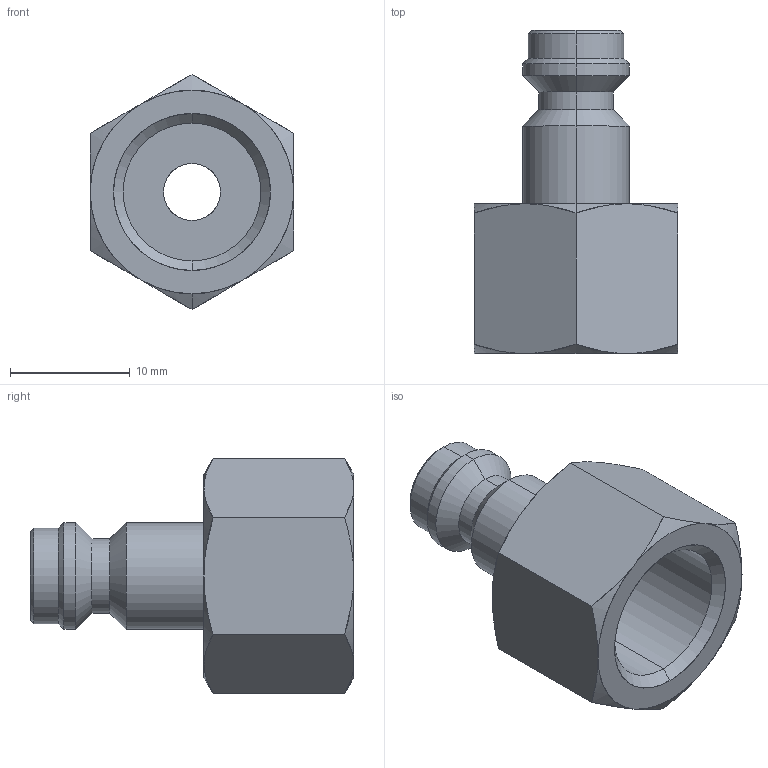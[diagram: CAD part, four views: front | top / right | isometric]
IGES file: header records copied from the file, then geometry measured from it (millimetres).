
Start section: SolidWorks IGES file using analytic representation for surfaces
Global section: file name: C:\Salvar\Planos Compartidos\Acoples Rapidos TZS\TZA-PF.IGS; native system: SolidWorks 2022; preprocessor: SolidWorks 2022; author: osval; date: 220426.125823; units: millimetre
Bounding box: 17 x 27 x 19.63 mm (x, y, z)
Surface area: 2186.8 mm2 (no closed solid volume)
Topology: 0 solids, 0 shells, 46 faces, 578 edges, 578 vertices
Faces by surface type: revolution 36, bspline 10
